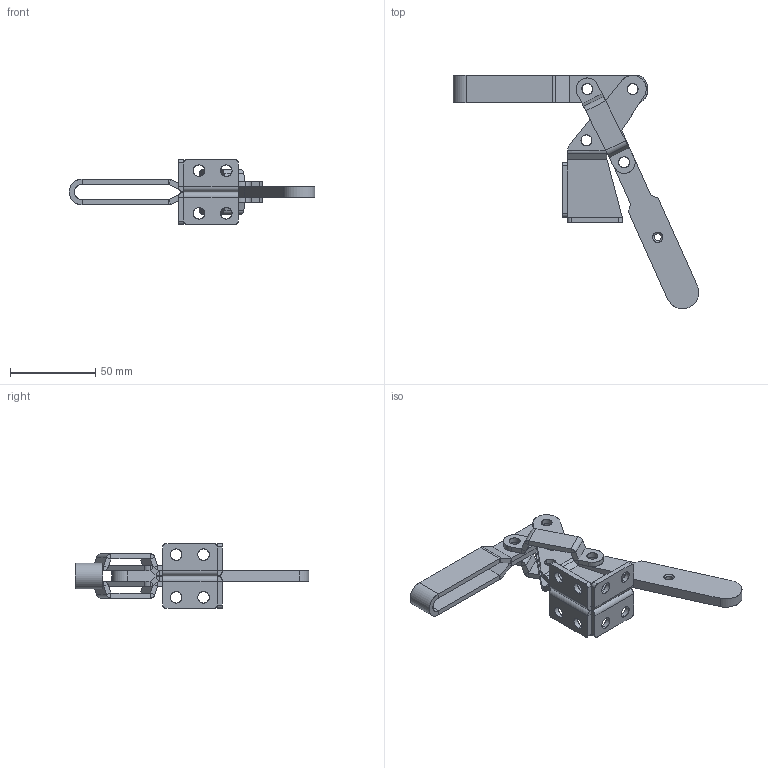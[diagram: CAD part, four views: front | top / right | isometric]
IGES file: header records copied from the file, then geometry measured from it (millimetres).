
Start section: SolidWorks IGES file using analytic representation for surfaces
Global section: file name: D:\GH Files\GH-SW-FILES\GH2\20820\台灣規格\GH-20820.IGS; native system: SolidWorks 2006 by SolidWorks Corporation; preprocessor: SolidWorks 2006 by SolidWorks Corporation; author: Administrator; date: 060824.114837; units: millimetre
Bounding box: 143.77 x 136.78 x 38 mm (x, y, z)
Surface area: 33296.7 mm2 (no closed solid volume)
Topology: 0 solids, 0 shells, 286 faces, 3516 edges, 3516 vertices
Faces by surface type: bspline 164, revolution 122
